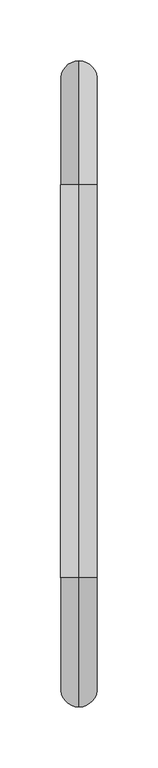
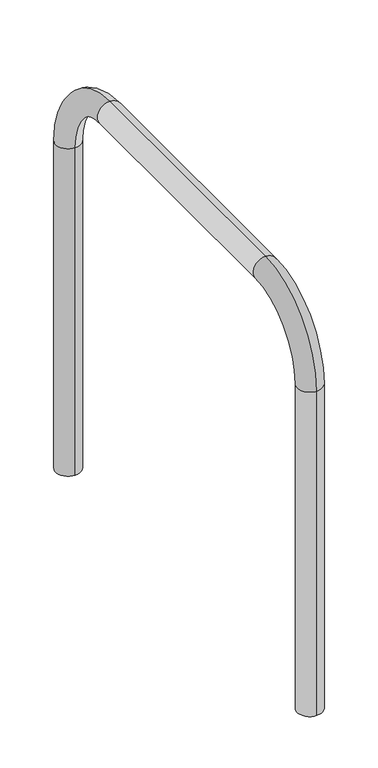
"""IFC4 building model written with IfcOpenShell, lengths in millimetres: furniture geometry, Mobile Ausstattung Veloständer : Veloständer."""

from ifc_helpers import new_model, si_unit, point, frame, origin, place, context, project, spatial, circle_curve, ellipse_curve, trimmed, source, transform, mapped, element, save
from ifc_brep_helpers import plane_surface, cylinder_surface, revolved_surface, advanced_brep


def furniture_dd9871c5(model_context):
    return source(origin(), model_context, "Body", "AdvancedBrep", [
        advanced_brep(
        [(0.0, -206.2963259, 0.0), (0.0, -176.2963259, 0.0), (0.0, -176.2963259, 408.9713217), (0.0, -206.2963259, 408.9713217), (0.0, -100.2676476, 485.0), (0.0, -100.2676476, 515.0), (0.0, 222.0286783, 485.0), (0.0, 222.0286783, 515.0), (0.0, 293.7036741, 413.3250042), (0.0, 323.7036741, 413.3250042), (0.0, 323.7036741, 0.0), (0.0, 293.7036741, 0.0)],
        [
            (0, 1, circle_curve(frame((0.0, -191.2963259, 0.0), z_axis=(0.0, 0.0, -1.0), x_axis=(0.0, 1.0, 0.0)), 15.0)),
            (1, 0, circle_curve(frame((0.0, -191.2963259, 0.0), z_axis=(0.0, 0.0, -1.0), x_axis=(0.0, 1.0, 0.0)), 15.0)),
            (1, 2),
            (2, 3, circle_curve(frame((0.0, -191.2963259, 408.9713217), z_axis=(0.0, 0.0, -1.0), x_axis=(0.0, 1.0, 0.0)), 15.0)),
            (3, 0),
            (3, 2, circle_curve(frame((0.0, -191.2963259, 408.9713217), z_axis=(0.0, 0.0, -1.0), x_axis=(0.0, 1.0, 0.0)), 15.0)),
            (4, 5, circle_curve(frame((0.0, -100.2676476, 500.0), z_axis=(0.0, -1.0, 0.0), x_axis=(0.0, 0.0, -1.0)), 15.0)),
            (5, 3, circle_curve(frame((0.0, -100.2676476, 408.9713217), z_axis=(1.0, 0.0, 0.0), x_axis=(0.0, -1.0, 0.0)), 106.0286783)),
            (2, 4, circle_curve(frame((0.0, -100.2676476, 408.9713217), z_axis=(-1.0, 0.0, 0.0), x_axis=(0.0, -1.0, 0.0)), 76.0286783)),
            (5, 4, circle_curve(frame((0.0, -100.2676476, 500.0), z_axis=(0.0, -1.0, 0.0), x_axis=(0.0, 0.0, -1.0)), 15.0)),
            (4, 6),
            (6, 7, circle_curve(frame((0.0, 222.0286783, 500.0), z_axis=(0.0, -1.0, 0.0), x_axis=(0.0, 0.0, -1.0)), 15.0)),
            (7, 5),
            (7, 6, circle_curve(frame((0.0, 222.0286783, 500.0), z_axis=(0.0, -1.0, 0.0), x_axis=(0.0, 0.0, -1.0)), 15.0)),
            (8, 9, circle_curve(frame((0.0, 308.7036741, 413.3250042), z_axis=(0.0, 0.0, 1.0), x_axis=(0.0, -1.0, 0.0)), 15.0)),
            (9, 7, circle_curve(frame((0.0, 222.0286783, 413.3250042), z_axis=(1.0, 0.0, 0.0), x_axis=(0.0, 0.0, 1.0)), 101.6749958)),
            (6, 8, circle_curve(frame((0.0, 222.0286783, 413.3250042), z_axis=(-1.0, 0.0, 0.0), x_axis=(0.0, 0.0, 1.0)), 71.6749958)),
            (9, 8, circle_curve(frame((0.0, 308.7036741, 413.3250042), z_axis=(0.0, 0.0, 1.0), x_axis=(0.0, -1.0, 0.0)), 15.0)),
            (10, 11, circle_curve(frame((0.0, 308.7036741, 0.0), z_axis=(0.0, 0.0, -1.0), x_axis=(0.0, -1.0, 0.0)), 15.0)),
            (11, 10, circle_curve(frame((0.0, 308.7036741, 0.0), z_axis=(0.0, 0.0, -1.0), x_axis=(0.0, -1.0, 0.0)), 15.0)),
            (8, 11),
            (10, 9),
        ],
        [
            plane_surface(frame((0.0, -191.2963259, 0.0), z_axis=(0.0, 0.0, -1.0), x_axis=(1.0, 0.0, 0.0))),
            cylinder_surface(frame((0.0, -191.2963259, 0.0), z_axis=(0.0, 0.0, -1.0), x_axis=(0.0, 1.0, 0.0)), 15.0),
            revolved_surface(trimmed(ellipse_curve(frame((0.0, -191.2963259, 408.9713217), z_axis=(0.0, 0.0, 1.0), x_axis=(0.0, 1.0, 0.0)), 15.0, 15.0), [point((0.0, -206.2963259, 408.9713217))], [point((0.0, -176.2963259, 408.9713217))], True, "CARTESIAN"), (0.0, -100.2676476, 408.9713217), (1.0, 0.0, 0.0)),
            revolved_surface(trimmed(ellipse_curve(frame((0.0, -191.2963259, 408.9713217), z_axis=(0.0, 0.0, 1.0), x_axis=(0.0, 1.0, 0.0)), 15.0, 15.0), [point((0.0, -176.2963259, 408.9713217))], [point((0.0, -206.2963259, 408.9713217))], True, "CARTESIAN"), (0.0, -100.2676476, 408.9713217), (1.0, 0.0, 0.0)),
            cylinder_surface(frame((0.0, -100.2676476, 500.0), z_axis=(0.0, -1.0, 0.0), x_axis=(0.0, 0.0, -1.0)), 15.0),
            revolved_surface(trimmed(ellipse_curve(frame((0.0, 222.0286783, 500.0), z_axis=(0.0, 1.0, 0.0), x_axis=(0.0, 0.0, -1.0)), 15.0, 15.0), [point((0.0, 222.0286783, 515.0))], [point((0.0, 222.0286783, 485.0))], True, "CARTESIAN"), (0.0, 222.0286783, 413.3250042), (1.0, 0.0, 0.0)),
            revolved_surface(trimmed(ellipse_curve(frame((0.0, 222.0286783, 500.0), z_axis=(0.0, 1.0, 0.0), x_axis=(0.0, 0.0, -1.0)), 15.0, 15.0), [point((0.0, 222.0286783, 485.0))], [point((0.0, 222.0286783, 515.0))], True, "CARTESIAN"), (0.0, 222.0286783, 413.3250042), (1.0, 0.0, 0.0)),
            plane_surface(frame((0.0, 308.7036741, 0.0), z_axis=(0.0, 0.0, -1.0), x_axis=(1.0, 0.0, 0.0))),
            cylinder_surface(frame((0.0, 308.7036741, 413.3250042), z_axis=(0.0, 0.0, 1.0), x_axis=(0.0, -1.0, 0.0)), 15.0),
        ],
        [
            (0, [[1, 2]]),
            (1, [[3, 4, 5, -2]]),
            (1, [[-5, 6, -3, -1]]),
            (2, [[7, 8, -4, 9]]),
            (3, [[10, -9, -6, -8]]),
            (4, [[11, 12, 13, -7]]),
            (4, [[-13, 14, -11, -10]]),
            (5, [[15, 16, -12, 17]]),
            (6, [[18, -17, -14, -16]]),
            (7, [[19, 20]]),
            (8, [[21, -19, 22, -15]]),
            (8, [[-22, -20, -21, -18]]),
        ],
    ),
    ])


if __name__ == "__main__":
    model = new_model("IFC4")
    model_context = context("Model", 3, world=origin())
    ifc_project = project(units=[si_unit("LENGTHUNIT", "METRE", prefix="MILLI")], contexts=[model_context])
    site = spatial("IfcSite", under=ifc_project)
    building = spatial("IfcBuilding", under=site)
    placement = place(None, origin())
    furniture_shape = furniture_dd9871c5(model_context)
    element("IfcFurniture", 1, ObjectType="Mobile Ausstattung Veloständer : Veloständer", at=placement, inside=building, context=model_context, shape_type="MappedRepresentation", body=[
        mapped(furniture_shape, transform((0.0, 0.0, 0.0), x_axis=(1.0, 0.0, 0.0), y_axis=(0.0, 1.0, 0.0), z_axis=(0.0, 0.0, 1.0))),
    ])
    save(model, "model.ifc")
